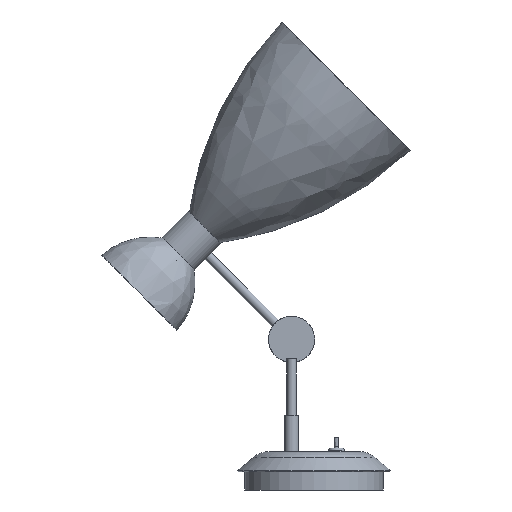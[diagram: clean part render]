
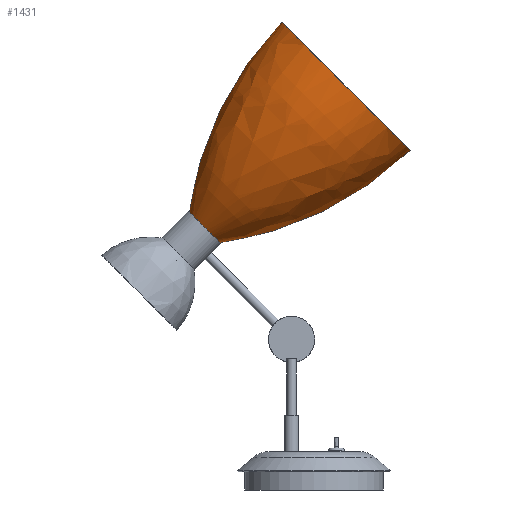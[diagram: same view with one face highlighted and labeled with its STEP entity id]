
A CAD part, left-side view. The second image highlights one B-rep face of the part: STEP entity #1431.
In plain terms, the highlighted free-form (B-spline) face has degree [2, 2] with [3, 5] control points.
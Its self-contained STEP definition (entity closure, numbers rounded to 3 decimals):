
#356=FACE_OUTER_BOUND('',#464,.T.);
#464=EDGE_LOOP('',(#1132,#1133,#1134,#1135));
#570=CIRCLE('',#1572,14.);
#574=CIRCLE('',#1580,221.624);
#575=CIRCLE('',#1581,221.624);
#576=CIRCLE('',#1582,59.);
#673=VERTEX_POINT('',#2842);
#674=VERTEX_POINT('',#2843);
#677=VERTEX_POINT('',#2876);
#678=VERTEX_POINT('',#2877);
#824=EDGE_CURVE('',#674,#673,#570,.T.);
#832=EDGE_CURVE('',#673,#677,#574,.T.);
#833=EDGE_CURVE('',#678,#674,#575,.T.);
#834=EDGE_CURVE('',#678,#677,#576,.T.);
#1132=ORIENTED_EDGE('',*,*,#834,.F.);
#1133=ORIENTED_EDGE('',*,*,#833,.T.);
#1134=ORIENTED_EDGE('',*,*,#824,.T.);
#1135=ORIENTED_EDGE('',*,*,#832,.T.);
#1385=(
BOUNDED_SURFACE()
B_SPLINE_SURFACE(2,2,((#2881,#2882,#2883,#2884,#2885),(#2886,#2887,#2888,
#2889,#2890),(#2891,#2892,#2893,#2894,#2895)),.UNSPECIFIED.,.F.,.F.,.F.)
B_SPLINE_SURFACE_WITH_KNOTS((3,3),(3,2,3),(-0.649,-0.018),
(-1.571,0.,1.571),.UNSPECIFIED.)
GEOMETRIC_REPRESENTATION_ITEM()
RATIONAL_B_SPLINE_SURFACE(((1.,0.707,1.,0.707,1.),
(0.951,0.672,0.951,0.672,
0.951),(1.,0.707,1.,0.707,1.)))
REPRESENTATION_ITEM('')
SURFACE()
);
#1431=ADVANCED_FACE('',(#356),#1385,.F.);
#1572=AXIS2_PLACEMENT_3D('',#2848,#1850,#1851);
#1580=AXIS2_PLACEMENT_3D('',#2879,#1870,#1871);
#1581=AXIS2_PLACEMENT_3D('',#2880,#1872,#1873);
#1582=AXIS2_PLACEMENT_3D('',#2896,#1874,#1875);
#1850=DIRECTION('center_axis',(0.,0.707,0.707));
#1851=DIRECTION('ref_axis',(0.,-0.707,0.707));
#1870=DIRECTION('center_axis',(1.,0.,0.));
#1871=DIRECTION('ref_axis',(0.,0.707,-0.707));
#1872=DIRECTION('center_axis',(1.,0.,0.));
#1873=DIRECTION('ref_axis',(0.,-0.707,0.707));
#1874=DIRECTION('center_axis',(0.,0.707,0.707));
#1875=DIRECTION('ref_axis',(1.,0.,0.));
#2842=CARTESIAN_POINT('',(0.,-46.646,160.837));
#2843=CARTESIAN_POINT('',(0.,-66.445,180.636));
#2848=CARTESIAN_POINT('Origin',(0.,-56.545,
170.736));
#2876=CARTESIAN_POINT('',(0.,77.098,220.941));
#2877=CARTESIAN_POINT('',(0.,-6.341,304.379));
#2879=CARTESIAN_POINT('Origin',(0.,-76.821,380.397));
#2880=CARTESIAN_POINT('Origin',(0.,153.115,150.461));
#2881=CARTESIAN_POINT('Ctrl Pts',(0.,-66.445,
180.636));
#2882=CARTESIAN_POINT('Ctrl Pts',(14.,-66.445,180.636));
#2883=CARTESIAN_POINT('Ctrl Pts',(14.,-56.545,170.736));
#2884=CARTESIAN_POINT('Ctrl Pts',(14.,-46.646,160.837));
#2885=CARTESIAN_POINT('Ctrl Pts',(0.,-46.646,
160.837));
#2886=CARTESIAN_POINT('Ctrl Pts',(0.,-56.593,
252.319));
#2887=CARTESIAN_POINT('Ctrl Pts',(57.722,-56.593,252.319));
#2888=CARTESIAN_POINT('Ctrl Pts',(57.722,-15.778,211.504));
#2889=CARTESIAN_POINT('Ctrl Pts',(57.722,25.038,170.688));
#2890=CARTESIAN_POINT('Ctrl Pts',(0.,25.038,
170.688));
#2891=CARTESIAN_POINT('Ctrl Pts',(0.,-6.341,
304.379));
#2892=CARTESIAN_POINT('Ctrl Pts',(59.,-6.341,304.379));
#2893=CARTESIAN_POINT('Ctrl Pts',(59.,35.379,262.66));
#2894=CARTESIAN_POINT('Ctrl Pts',(59.,77.098,220.941));
#2895=CARTESIAN_POINT('Ctrl Pts',(0.,77.098,
220.941));
#2896=CARTESIAN_POINT('Origin',(0.,35.379,262.66));
